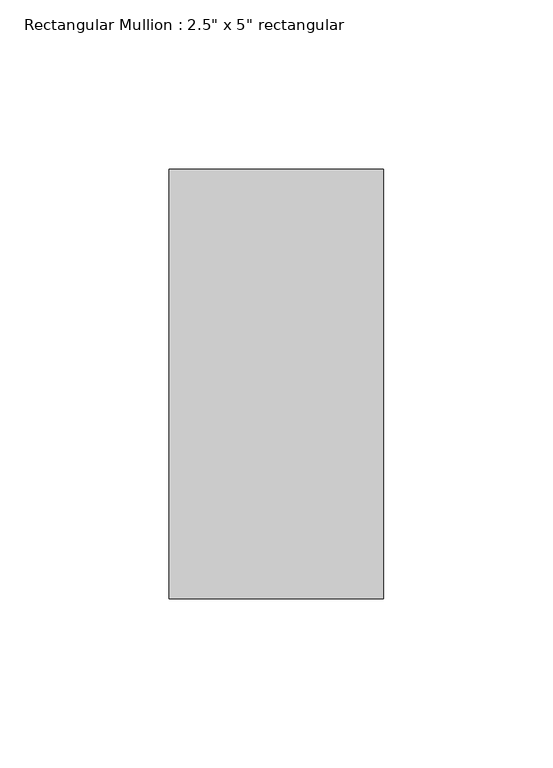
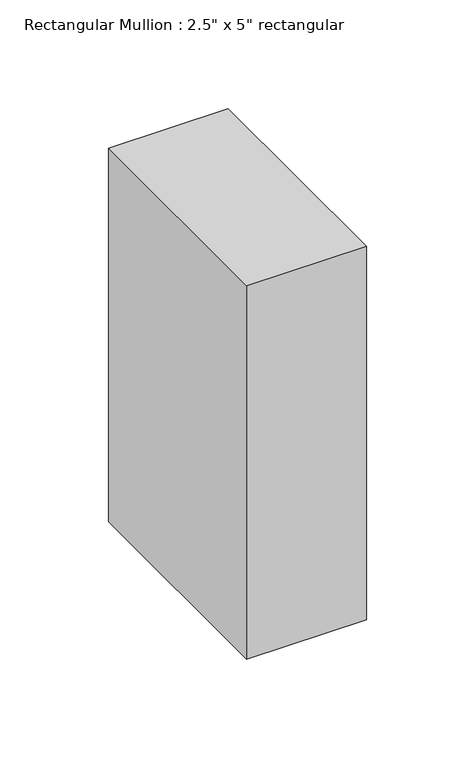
"""IFC4 building model written with IfcOpenShell, lengths in millimetres: member geometry."""

from ifc_helpers import new_model, si_unit, frame, origin, place, context, project, spatial, polyline, outline, extrude, source, transform, mapped, element, save


def member_a5966c2a(model_context):
    return source(origin(), model_context, "Body", "SweptSolid", [
        extrude(outline(polyline([(31.75, 63.5), (31.75, -63.5), (-31.75, -63.5), (-31.75, 63.5), (31.75, 63.5)])), frame((0.0, 0.0, -209.55), z_axis=(0.0, 0.0, 1.0), x_axis=(1.0, 0.0, 0.0)), (0.0, 0.0, 1.0), 209.55),
    ])


if __name__ == "__main__":
    model = new_model("IFC4")
    model_context = context("Model", 3, world=origin())
    ifc_project = project(units=[si_unit("LENGTHUNIT", "METRE", prefix="MILLI")], contexts=[model_context])
    site = spatial("IfcSite", under=ifc_project)
    building = spatial("IfcBuilding", under=site)
    placement = place(None, origin())
    member_shape = member_a5966c2a(model_context)
    element("IfcMember", 1, ObjectType="Rectangular Mullion : 2.5\" x 5\" rectangular", at=placement, inside=building, context=model_context, shape_type="MappedRepresentation", body=[
        mapped(member_shape, transform((0.0, 0.0, 0.0), x_axis=(1.0, 0.0, 0.0), y_axis=(0.0, 1.0, 0.0), z_axis=(0.0, 0.0, 1.0))),
    ])
    save(model, "model.ifc")
